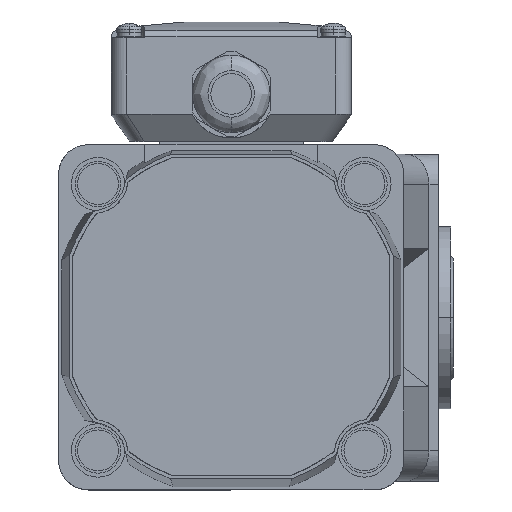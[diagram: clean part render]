
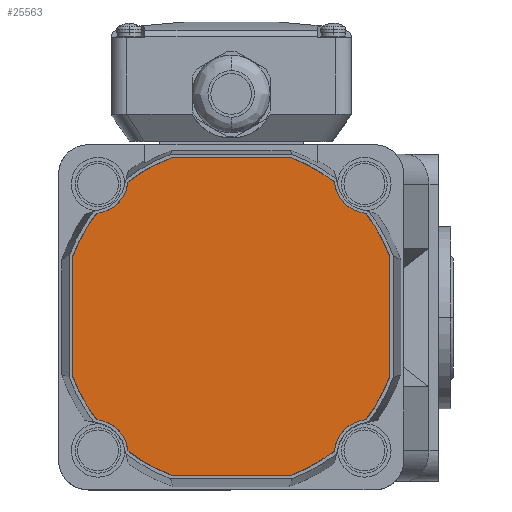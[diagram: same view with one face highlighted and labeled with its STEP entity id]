
A CAD part, top view. The second image highlights one B-rep face of the part: STEP entity #25563.
In plain terms, the highlighted planar face has unit normal (0, 0, 1).
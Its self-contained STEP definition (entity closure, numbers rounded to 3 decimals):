
#52 = DIRECTION ( 'NONE',  ( -1., 0., 0. ) ) ;
#137 = EDGE_LOOP ( 'NONE', ( #4452, #4409, #9361, #7476, #24527, #5460, #9510, #17092, #26447, #25941, #18338, #16623, #3343, #1701, #20993, #15845 ) ) ;
#351 = EDGE_CURVE ( 'NONE', #24784, #20082, #8881, .T. ) ;
#551 = CARTESIAN_POINT ( 'NONE',  ( -42.83, 32.887, 157. ) ) ;
#742 = CARTESIAN_POINT ( 'NONE',  ( 42.83, -32.887, 157. ) ) ;
#1036 = DIRECTION ( 'NONE',  ( 0., 0., 1. ) ) ;
#1213 = CIRCLE ( 'NONE', #8744, 54. ) ;
#1701 = ORIENTED_EDGE ( 'NONE', *, *, #22080, .T. ) ;
#1798 = VERTEX_POINT ( 'NONE', #2981 ) ;
#2248 = CARTESIAN_POINT ( 'NONE',  ( -43.841, -43.841, 157. ) ) ;
#2356 = CIRCLE ( 'NONE', #18523, 54. ) ;
#2381 = VERTEX_POINT ( 'NONE', #21780 ) ;
#2436 = CARTESIAN_POINT ( 'NONE',  ( 43.841, 43.841, 157. ) ) ;
#2530 = CARTESIAN_POINT ( 'NONE',  ( 0., 0., 157. ) ) ;
#2822 = DIRECTION ( 'NONE',  ( -1., 0., 0. ) ) ;
#2939 = EDGE_CURVE ( 'NONE', #5143, #27104, #23939, .T. ) ;
#2981 = CARTESIAN_POINT ( 'NONE',  ( 19.125, 50.5, 157. ) ) ;
#3026 = VECTOR ( 'NONE', #8317, 1000. ) ;
#3293 = DIRECTION ( 'NONE',  ( 1., 0., 0. ) ) ;
#3343 = ORIENTED_EDGE ( 'NONE', *, *, #16618, .T. ) ;
#3714 = DIRECTION ( 'NONE',  ( -1., 0., 0. ) ) ;
#4220 = DIRECTION ( 'NONE',  ( 0., 0., -1. ) ) ;
#4340 = AXIS2_PLACEMENT_3D ( 'NONE', #13632, #13547, #15907 ) ;
#4409 = ORIENTED_EDGE ( 'NONE', *, *, #16779, .T. ) ;
#4452 = ORIENTED_EDGE ( 'NONE', *, *, #351, .T. ) ;
#4650 = VERTEX_POINT ( 'NONE', #19346 ) ;
#4777 = EDGE_CURVE ( 'NONE', #24046, #16141, #11766, .T. ) ;
#5143 = VERTEX_POINT ( 'NONE', #19837 ) ;
#5249 = CARTESIAN_POINT ( 'NONE',  ( -19.125, -50.5, 157. ) ) ;
#5460 = ORIENTED_EDGE ( 'NONE', *, *, #12871, .T. ) ;
#5491 = EDGE_CURVE ( 'NONE', #18250, #11405, #1213, .T. ) ;
#5557 = DIRECTION ( 'NONE',  ( 0., 0., 1. ) ) ;
#5742 = DIRECTION ( 'NONE',  ( -1., 0., 0. ) ) ;
#6043 = EDGE_CURVE ( 'NONE', #11405, #24784, #27176, .T. ) ;
#6066 = CARTESIAN_POINT ( 'NONE',  ( -50.5, -19.125, 157. ) ) ;
#6563 = VECTOR ( 'NONE', #9274, 1000. ) ;
#6747 = LINE ( 'NONE', #27609, #3026 ) ;
#6914 = CARTESIAN_POINT ( 'NONE',  ( 0., 0., 157. ) ) ;
#7014 = DIRECTION ( 'NONE',  ( -1., 0., 0. ) ) ;
#7476 = ORIENTED_EDGE ( 'NONE', *, *, #9203, .T. ) ;
#7876 = CARTESIAN_POINT ( 'NONE',  ( -50.5, 19.125, 157. ) ) ;
#8317 = DIRECTION ( 'NONE',  ( 0., -1., 0. ) ) ;
#8376 = AXIS2_PLACEMENT_3D ( 'NONE', #13033, #15095, #52 ) ;
#8650 = VECTOR ( 'NONE', #25530, 1000. ) ;
#8744 = AXIS2_PLACEMENT_3D ( 'NONE', #17183, #25731, #12861 ) ;
#8881 = CIRCLE ( 'NONE', #19504, 54. ) ;
#9203 = EDGE_CURVE ( 'NONE', #16401, #5143, #25985, .T. ) ;
#9274 = DIRECTION ( 'NONE',  ( 1., 0., 0. ) ) ;
#9353 = DIRECTION ( 'NONE',  ( 0., 0., 1. ) ) ;
#9361 = ORIENTED_EDGE ( 'NONE', *, *, #15272, .T. ) ;
#9510 = ORIENTED_EDGE ( 'NONE', *, *, #16272, .T. ) ;
#10207 = CARTESIAN_POINT ( 'NONE',  ( 0., 0., 157. ) ) ;
#10599 = DIRECTION ( 'NONE',  ( -1., 0., 0. ) ) ;
#10811 = EDGE_CURVE ( 'NONE', #26625, #24681, #20243, .T. ) ;
#11131 = CIRCLE ( 'NONE', #26588, 54. ) ;
#11405 = VERTEX_POINT ( 'NONE', #27837 ) ;
#11642 = AXIS2_PLACEMENT_3D ( 'NONE', #10207, #5557, #5742 ) ;
#11766 = CIRCLE ( 'NONE', #8376, 11. ) ;
#12587 = VERTEX_POINT ( 'NONE', #24719 ) ;
#12759 = DIRECTION ( 'NONE',  ( 0., 0., 1. ) ) ;
#12861 = DIRECTION ( 'NONE',  ( -1., 0., 0. ) ) ;
#12871 = EDGE_CURVE ( 'NONE', #27104, #12587, #16395, .T. ) ;
#13033 = CARTESIAN_POINT ( 'NONE',  ( 43.841, -43.841, 157. ) ) ;
#13438 = CARTESIAN_POINT ( 'NONE',  ( 0., -50.5, 157. ) ) ;
#13547 = DIRECTION ( 'NONE',  ( 0., 0., 1. ) ) ;
#13632 = CARTESIAN_POINT ( 'NONE',  ( 0., 0., 157. ) ) ;
#14162 = CARTESIAN_POINT ( 'NONE',  ( 0., 0., 157. ) ) ;
#14365 = CARTESIAN_POINT ( 'NONE',  ( 42.83, 32.887, 157. ) ) ;
#14657 = CARTESIAN_POINT ( 'NONE',  ( 50.5, 19.125, 157. ) ) ;
#14733 = CARTESIAN_POINT ( 'NONE',  ( 0., 0., 157. ) ) ;
#14766 = FACE_OUTER_BOUND ( 'NONE', #137, .T. ) ;
#15095 = DIRECTION ( 'NONE',  ( 0., 0., -1. ) ) ;
#15272 = EDGE_CURVE ( 'NONE', #16453, #16401, #23014, .T. ) ;
#15503 = DIRECTION ( 'NONE',  ( 0., 0., -1. ) ) ;
#15845 = ORIENTED_EDGE ( 'NONE', *, *, #6043, .T. ) ;
#15907 = DIRECTION ( 'NONE',  ( -1., 0., 0. ) ) ;
#15924 = AXIS2_PLACEMENT_3D ( 'NONE', #2530, #9353, #2822 ) ;
#16141 = VERTEX_POINT ( 'NONE', #742 ) ;
#16272 = EDGE_CURVE ( 'NONE', #12587, #24046, #2356, .T. ) ;
#16395 = LINE ( 'NONE', #13438, #6563 ) ;
#16401 = VERTEX_POINT ( 'NONE', #18329 ) ;
#16453 = VERTEX_POINT ( 'NONE', #6066 ) ;
#16596 = LINE ( 'NONE', #23245, #20287 ) ;
#16618 = EDGE_CURVE ( 'NONE', #2381, #1798, #11131, .T. ) ;
#16623 = ORIENTED_EDGE ( 'NONE', *, *, #18967, .T. ) ;
#16779 = EDGE_CURVE ( 'NONE', #20082, #16453, #6747, .T. ) ;
#16901 = DIRECTION ( 'NONE',  ( -1., 0., 0. ) ) ;
#16904 = AXIS2_PLACEMENT_3D ( 'NONE', #2248, #4220, #19183 ) ;
#17092 = ORIENTED_EDGE ( 'NONE', *, *, #4777, .T. ) ;
#17183 = CARTESIAN_POINT ( 'NONE',  ( 0., 0., 157. ) ) ;
#17188 = DIRECTION ( 'NONE',  ( 0., 0., 1. ) ) ;
#17464 = CIRCLE ( 'NONE', #11642, 54. ) ;
#17901 = DIRECTION ( 'NONE',  ( -1., 0., 0. ) ) ;
#18250 = VERTEX_POINT ( 'NONE', #20053 ) ;
#18329 = CARTESIAN_POINT ( 'NONE',  ( -42.83, -32.887, 157. ) ) ;
#18338 = ORIENTED_EDGE ( 'NONE', *, *, #10811, .T. ) ;
#18523 = AXIS2_PLACEMENT_3D ( 'NONE', #14162, #24811, #20411 ) ;
#18526 = DIRECTION ( 'NONE',  ( 0., 0., 1. ) ) ;
#18967 = EDGE_CURVE ( 'NONE', #24681, #2381, #19482, .T. ) ;
#19183 = DIRECTION ( 'NONE',  ( -1., 0., 0. ) ) ;
#19237 = EDGE_CURVE ( 'NONE', #4650, #26625, #21822, .T. ) ;
#19346 = CARTESIAN_POINT ( 'NONE',  ( 50.5, -19.125, 157. ) ) ;
#19482 = CIRCLE ( 'NONE', #22153, 11. ) ;
#19504 = AXIS2_PLACEMENT_3D ( 'NONE', #14733, #12759, #16901 ) ;
#19827 = DIRECTION ( 'NONE',  ( -1., 0., 0. ) ) ;
#19837 = CARTESIAN_POINT ( 'NONE',  ( -32.887, -42.83, 157. ) ) ;
#20053 = CARTESIAN_POINT ( 'NONE',  ( -19.125, 50.5, 157. ) ) ;
#20082 = VERTEX_POINT ( 'NONE', #7876 ) ;
#20243 = CIRCLE ( 'NONE', #24861, 54. ) ;
#20287 = VECTOR ( 'NONE', #3714, 1000. ) ;
#20411 = DIRECTION ( 'NONE',  ( -1., 0., 0. ) ) ;
#20771 = CARTESIAN_POINT ( 'NONE',  ( 0., 0., 157. ) ) ;
#20993 = ORIENTED_EDGE ( 'NONE', *, *, #5491, .T. ) ;
#21135 = CARTESIAN_POINT ( 'NONE',  ( 50.5, 0., 157. ) ) ;
#21295 = EDGE_CURVE ( 'NONE', #16141, #4650, #17464, .T. ) ;
#21780 = CARTESIAN_POINT ( 'NONE',  ( 32.887, 42.83, 157. ) ) ;
#21822 = LINE ( 'NONE', #21135, #8650 ) ;
#22080 = EDGE_CURVE ( 'NONE', #1798, #18250, #16596, .T. ) ;
#22137 = DIRECTION ( 'NONE',  ( 0., 0., -1. ) ) ;
#22153 = AXIS2_PLACEMENT_3D ( 'NONE', #2436, #15503, #19827 ) ;
#23014 = CIRCLE ( 'NONE', #15924, 54. ) ;
#23245 = CARTESIAN_POINT ( 'NONE',  ( 0., 50.5, 157. ) ) ;
#23766 = AXIS2_PLACEMENT_3D ( 'NONE', #20771, #18526, #3293 ) ;
#23939 = CIRCLE ( 'NONE', #4340, 54. ) ;
#24046 = VERTEX_POINT ( 'NONE', #26076 ) ;
#24105 = CARTESIAN_POINT ( 'NONE',  ( -43.841, 43.841, 157. ) ) ;
#24527 = ORIENTED_EDGE ( 'NONE', *, *, #2939, .T. ) ;
#24681 = VERTEX_POINT ( 'NONE', #14365 ) ;
#24719 = CARTESIAN_POINT ( 'NONE',  ( 19.125, -50.5, 157. ) ) ;
#24784 = VERTEX_POINT ( 'NONE', #551 ) ;
#24811 = DIRECTION ( 'NONE',  ( 0., 0., 1. ) ) ;
#24861 = AXIS2_PLACEMENT_3D ( 'NONE', #27719, #17188, #10599 ) ;
#25082 = PLANE ( 'NONE',  #23766 ) ;
#25530 = DIRECTION ( 'NONE',  ( 0., 1., 0. ) ) ;
#25563 = ADVANCED_FACE ( 'NONE', ( #14766 ), #25082, .T. ) ;
#25731 = DIRECTION ( 'NONE',  ( 0., 0., 1. ) ) ;
#25941 = ORIENTED_EDGE ( 'NONE', *, *, #19237, .T. ) ;
#25985 = CIRCLE ( 'NONE', #16904, 11. ) ;
#26076 = CARTESIAN_POINT ( 'NONE',  ( 32.887, -42.83, 157. ) ) ;
#26447 = ORIENTED_EDGE ( 'NONE', *, *, #21295, .T. ) ;
#26588 = AXIS2_PLACEMENT_3D ( 'NONE', #6914, #1036, #7014 ) ;
#26625 = VERTEX_POINT ( 'NONE', #14657 ) ;
#27104 = VERTEX_POINT ( 'NONE', #5249 ) ;
#27176 = CIRCLE ( 'NONE', #27368, 11. ) ;
#27368 = AXIS2_PLACEMENT_3D ( 'NONE', #24105, #22137, #17901 ) ;
#27609 = CARTESIAN_POINT ( 'NONE',  ( -50.5, 0., 157. ) ) ;
#27719 = CARTESIAN_POINT ( 'NONE',  ( 0., 0., 157. ) ) ;
#27837 = CARTESIAN_POINT ( 'NONE',  ( -32.887, 42.83, 157. ) ) ;
